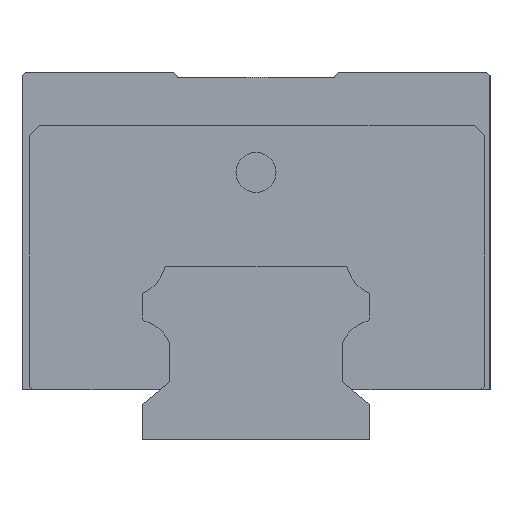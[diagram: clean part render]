
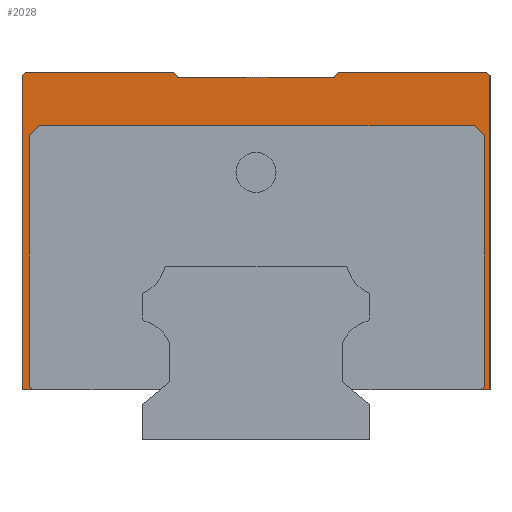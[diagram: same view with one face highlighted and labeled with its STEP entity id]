
A CAD part, left-side view. The second image highlights one B-rep face of the part: STEP entity #2028.
In plain terms, the highlighted planar face has unit normal (-1, 0, 0).
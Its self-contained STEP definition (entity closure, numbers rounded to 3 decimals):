
#52 = VERTEX_POINT ( 'NONE', #1339 ) ;
#122 = DIRECTION ( 'NONE',  ( 0., 0.707, -0.707 ) ) ;
#202 = ORIENTED_EDGE ( 'NONE', *, *, #1450, .F. ) ;
#217 = VERTEX_POINT ( 'NONE', #2444 ) ;
#224 = CARTESIAN_POINT ( 'NONE',  ( -39.5, -35., 7.5 ) ) ;
#261 = CARTESIAN_POINT ( 'NONE',  ( -39.5, -35., 54.5 ) ) ;
#287 = CARTESIAN_POINT ( 'NONE',  ( -39.5, 33.372, 7.5 ) ) ;
#374 = CARTESIAN_POINT ( 'NONE',  ( -39.5, 14.65, 7.5 ) ) ;
#441 = VERTEX_POINT ( 'NONE', #2200 ) ;
#459 = CARTESIAN_POINT ( 'NONE',  ( -39.5, 11.667, 54.25 ) ) ;
#473 = LINE ( 'NONE', #4389, #5278 ) ;
#485 = VECTOR ( 'NONE', #4030, 1000. ) ;
#512 = CARTESIAN_POINT ( 'NONE',  ( -39.5, 33.872, 8. ) ) ;
#599 = EDGE_CURVE ( 'NONE', #1211, #3193, #647, .T. ) ;
#600 = LINE ( 'NONE', #946, #5380 ) ;
#647 = LINE ( 'NONE', #261, #4842 ) ;
#660 = LINE ( 'NONE', #1153, #2907 ) ;
#663 = CARTESIAN_POINT ( 'NONE',  ( -39.5, 35., 55. ) ) ;
#668 = ORIENTED_EDGE ( 'NONE', *, *, #3623, .F. ) ;
#699 = VECTOR ( 'NONE', #2241, 1000. ) ;
#700 = CARTESIAN_POINT ( 'NONE',  ( -39.5, -35., 55. ) ) ;
#788 = CARTESIAN_POINT ( 'NONE',  ( -39.5, 33.872, 8. ) ) ;
#838 = EDGE_CURVE ( 'NONE', #4848, #2517, #1326, .T. ) ;
#890 = EDGE_CURVE ( 'NONE', #5544, #1887, #600, .T. ) ;
#939 = ORIENTED_EDGE ( 'NONE', *, *, #5353, .F. ) ;
#946 = CARTESIAN_POINT ( 'NONE',  ( -39.5, 32.372, 47. ) ) ;
#1043 = ORIENTED_EDGE ( 'NONE', *, *, #599, .T. ) ;
#1094 = ORIENTED_EDGE ( 'NONE', *, *, #890, .F. ) ;
#1153 = CARTESIAN_POINT ( 'NONE',  ( -39.5, -12.296, 55. ) ) ;
#1184 = CARTESIAN_POINT ( 'NONE',  ( -39.5, 11.667, 54.25 ) ) ;
#1211 = VERTEX_POINT ( 'NONE', #5770 ) ;
#1326 = LINE ( 'NONE', #788, #699 ) ;
#1339 = CARTESIAN_POINT ( 'NONE',  ( -39.5, -34.128, 8. ) ) ;
#1450 = EDGE_CURVE ( 'NONE', #3820, #1480, #4610, .T. ) ;
#1480 = VERTEX_POINT ( 'NONE', #3379 ) ;
#1572 = DIRECTION ( 'NONE',  ( 0., -1., 0. ) ) ;
#1861 = VERTEX_POINT ( 'NONE', #5074 ) ;
#1863 = VERTEX_POINT ( 'NONE', #3251 ) ;
#1887 = VERTEX_POINT ( 'NONE', #2750 ) ;
#1974 = DIRECTION ( 'NONE',  ( 0., 0., 1. ) ) ;
#1987 = DIRECTION ( 'NONE',  ( 0., 0.707, 0.707 ) ) ;
#2010 = VECTOR ( 'NONE', #5083, 1000. ) ;
#2018 = LINE ( 'NONE', #4786, #2136 ) ;
#2028 = ADVANCED_FACE ( 'NONE', ( #5732 ), #3346, .F. ) ;
#2035 = DIRECTION ( 'NONE',  ( 0., 0.707, -0.707 ) ) ;
#2090 = VECTOR ( 'NONE', #4833, 1000. ) ;
#2136 = VECTOR ( 'NONE', #1572, 1000. ) ;
#2146 = EDGE_CURVE ( 'NONE', #2517, #3820, #5335, .T. ) ;
#2177 = VECTOR ( 'NONE', #4782, 1000. ) ;
#2200 = CARTESIAN_POINT ( 'NONE',  ( -39.5, -34.128, 45.5 ) ) ;
#2218 = VERTEX_POINT ( 'NONE', #459 ) ;
#2241 = DIRECTION ( 'NONE',  ( 0., -0.707, -0.707 ) ) ;
#2265 = CARTESIAN_POINT ( 'NONE',  ( -39.5, -32.628, 47. ) ) ;
#2329 = LINE ( 'NONE', #4122, #3359 ) ;
#2333 = VECTOR ( 'NONE', #2035, 1000. ) ;
#2349 = ORIENTED_EDGE ( 'NONE', *, *, #3686, .F. ) ;
#2362 = ORIENTED_EDGE ( 'NONE', *, *, #2829, .T. ) ;
#2420 = VECTOR ( 'NONE', #3158, 1000. ) ;
#2442 = ORIENTED_EDGE ( 'NONE', *, *, #4377, .T. ) ;
#2444 = CARTESIAN_POINT ( 'NONE',  ( -39.5, 12.296, 55. ) ) ;
#2454 = ORIENTED_EDGE ( 'NONE', *, *, #3944, .F. ) ;
#2469 = DIRECTION ( 'NONE',  ( 0., 1., 0. ) ) ;
#2512 = LINE ( 'NONE', #3391, #2090 ) ;
#2517 = VERTEX_POINT ( 'NONE', #287 ) ;
#2660 = LINE ( 'NONE', #2265, #485 ) ;
#2702 = AXIS2_PLACEMENT_3D ( 'NONE', #5144, #2905, #2469 ) ;
#2750 = CARTESIAN_POINT ( 'NONE',  ( -39.5, 33.872, 45.5 ) ) ;
#2768 = LINE ( 'NONE', #4689, #5760 ) ;
#2820 = VECTOR ( 'NONE', #4749, 1000. ) ;
#2829 = EDGE_CURVE ( 'NONE', #2218, #217, #2981, .T. ) ;
#2846 = ORIENTED_EDGE ( 'NONE', *, *, #5616, .F. ) ;
#2860 = DIRECTION ( 'NONE',  ( 0., 0.643, 0.766 ) ) ;
#2905 = DIRECTION ( 'NONE',  ( 1., 0., 0. ) ) ;
#2907 = VECTOR ( 'NONE', #5660, 1000. ) ;
#2908 = EDGE_CURVE ( 'NONE', #1863, #3193, #4305, .T. ) ;
#2931 = CARTESIAN_POINT ( 'NONE',  ( -39.5, -34.128, 45.5 ) ) ;
#2945 = VERTEX_POINT ( 'NONE', #3419 ) ;
#2981 = LINE ( 'NONE', #1184, #4891 ) ;
#3009 = DIRECTION ( 'NONE',  ( 0., 0., -1. ) ) ;
#3065 = VERTEX_POINT ( 'NONE', #5348 ) ;
#3086 = CARTESIAN_POINT ( 'NONE',  ( -39.5, -35., 7.5 ) ) ;
#3147 = CARTESIAN_POINT ( 'NONE',  ( -39.5, -34.5, 55. ) ) ;
#3158 = DIRECTION ( 'NONE',  ( 0., 1., 0. ) ) ;
#3193 = VERTEX_POINT ( 'NONE', #3147 ) ;
#3251 = CARTESIAN_POINT ( 'NONE',  ( -39.5, -12.296, 55. ) ) ;
#3284 = CARTESIAN_POINT ( 'NONE',  ( -39.5, 35., 7.5 ) ) ;
#3346 = PLANE ( 'NONE',  #2702 ) ;
#3359 = VECTOR ( 'NONE', #3784, 1000. ) ;
#3366 = LINE ( 'NONE', #700, #3399 ) ;
#3379 = CARTESIAN_POINT ( 'NONE',  ( -39.5, 35., 54.5 ) ) ;
#3391 = CARTESIAN_POINT ( 'NONE',  ( -39.5, 33.872, 45.5 ) ) ;
#3399 = VECTOR ( 'NONE', #3009, 1000. ) ;
#3419 = CARTESIAN_POINT ( 'NONE',  ( -39.5, 34.5, 55. ) ) ;
#3446 = CARTESIAN_POINT ( 'NONE',  ( -39.5, 34.5, 55. ) ) ;
#3623 = EDGE_CURVE ( 'NONE', #3065, #52, #2329, .T. ) ;
#3651 = EDGE_CURVE ( 'NONE', #2945, #217, #2018, .T. ) ;
#3686 = EDGE_CURVE ( 'NONE', #441, #1861, #3849, .T. ) ;
#3784 = DIRECTION ( 'NONE',  ( 0., -0.707, 0.707 ) ) ;
#3820 = VERTEX_POINT ( 'NONE', #4151 ) ;
#3849 = LINE ( 'NONE', #2931, #5150 ) ;
#3891 = LINE ( 'NONE', #3446, #2333 ) ;
#3944 = EDGE_CURVE ( 'NONE', #4903, #3065, #5198, .T. ) ;
#3989 = EDGE_CURVE ( 'NONE', #1211, #4903, #3366, .T. ) ;
#4030 = DIRECTION ( 'NONE',  ( 0., 1., 0. ) ) ;
#4054 = EDGE_CURVE ( 'NONE', #4971, #2218, #473, .T. ) ;
#4122 = CARTESIAN_POINT ( 'NONE',  ( -39.5, -33.628, 7.5 ) ) ;
#4151 = CARTESIAN_POINT ( 'NONE',  ( -39.5, 35., 7.5 ) ) ;
#4160 = ORIENTED_EDGE ( 'NONE', *, *, #2908, .F. ) ;
#4305 = LINE ( 'NONE', #663, #2820 ) ;
#4377 = EDGE_CURVE ( 'NONE', #1863, #4971, #660, .T. ) ;
#4389 = CARTESIAN_POINT ( 'NONE',  ( -39.5, -11.667, 54.25 ) ) ;
#4390 = ORIENTED_EDGE ( 'NONE', *, *, #2146, .F. ) ;
#4418 = EDGE_CURVE ( 'NONE', #2945, #1480, #3891, .T. ) ;
#4564 = CARTESIAN_POINT ( 'NONE',  ( -39.5, -11.667, 54.25 ) ) ;
#4610 = LINE ( 'NONE', #3284, #2010 ) ;
#4685 = ORIENTED_EDGE ( 'NONE', *, *, #3651, .F. ) ;
#4689 = CARTESIAN_POINT ( 'NONE',  ( -39.5, -34.128, 8. ) ) ;
#4729 = DIRECTION ( 'NONE',  ( 0., 0.707, 0.707 ) ) ;
#4749 = DIRECTION ( 'NONE',  ( 0., -1., 0. ) ) ;
#4782 = DIRECTION ( 'NONE',  ( 0., 1., 0. ) ) ;
#4786 = CARTESIAN_POINT ( 'NONE',  ( -39.5, 35., 55. ) ) ;
#4833 = DIRECTION ( 'NONE',  ( 0., 0., -1. ) ) ;
#4842 = VECTOR ( 'NONE', #1987, 1000. ) ;
#4848 = VERTEX_POINT ( 'NONE', #512 ) ;
#4867 = ORIENTED_EDGE ( 'NONE', *, *, #4054, .T. ) ;
#4891 = VECTOR ( 'NONE', #2860, 1000. ) ;
#4903 = VERTEX_POINT ( 'NONE', #3086 ) ;
#4971 = VERTEX_POINT ( 'NONE', #4564 ) ;
#4992 = ORIENTED_EDGE ( 'NONE', *, *, #838, .F. ) ;
#5074 = CARTESIAN_POINT ( 'NONE',  ( -39.5, -32.628, 47. ) ) ;
#5083 = DIRECTION ( 'NONE',  ( 0., 0., 1. ) ) ;
#5144 = CARTESIAN_POINT ( 'NONE',  ( -39.5, -35., 55. ) ) ;
#5150 = VECTOR ( 'NONE', #4729, 1000. ) ;
#5198 = LINE ( 'NONE', #224, #2177 ) ;
#5207 = ORIENTED_EDGE ( 'NONE', *, *, #5528, .F. ) ;
#5278 = VECTOR ( 'NONE', #5750, 1000. ) ;
#5335 = LINE ( 'NONE', #374, #2420 ) ;
#5348 = CARTESIAN_POINT ( 'NONE',  ( -39.5, -33.628, 7.5 ) ) ;
#5353 = EDGE_CURVE ( 'NONE', #1861, #5544, #2660, .T. ) ;
#5380 = VECTOR ( 'NONE', #122, 1000. ) ;
#5478 = EDGE_LOOP ( 'NONE', ( #5207, #668, #2454, #5560, #1043, #4160, #2442, #4867, #2362, #4685, #5683, #202, #4390, #4992, #2846, #1094, #939, #2349 ) ) ;
#5528 = EDGE_CURVE ( 'NONE', #52, #441, #2768, .T. ) ;
#5544 = VERTEX_POINT ( 'NONE', #5597 ) ;
#5560 = ORIENTED_EDGE ( 'NONE', *, *, #3989, .F. ) ;
#5597 = CARTESIAN_POINT ( 'NONE',  ( -39.5, 32.372, 47. ) ) ;
#5616 = EDGE_CURVE ( 'NONE', #1887, #4848, #2512, .T. ) ;
#5660 = DIRECTION ( 'NONE',  ( 0., 0.643, -0.766 ) ) ;
#5683 = ORIENTED_EDGE ( 'NONE', *, *, #4418, .T. ) ;
#5732 = FACE_OUTER_BOUND ( 'NONE', #5478, .T. ) ;
#5750 = DIRECTION ( 'NONE',  ( 0., 1., 0. ) ) ;
#5760 = VECTOR ( 'NONE', #1974, 1000. ) ;
#5770 = CARTESIAN_POINT ( 'NONE',  ( -39.5, -35., 54.5 ) ) ;
